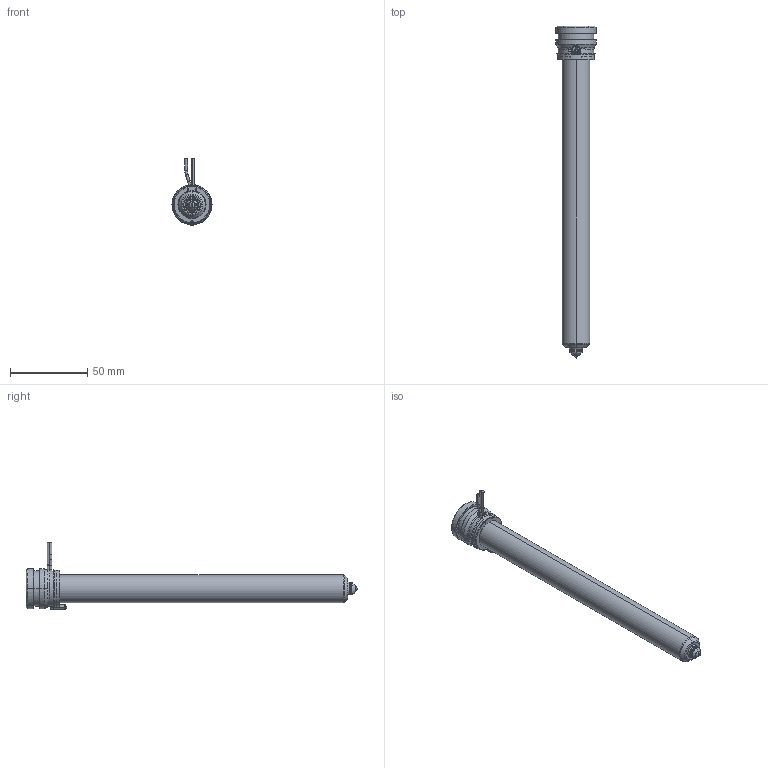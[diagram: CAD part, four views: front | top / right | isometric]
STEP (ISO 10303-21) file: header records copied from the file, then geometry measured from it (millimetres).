
FILE_DESCRIPTION((''),'2;1');
FILE_NAME('MPN-08-24-VX8-196-A','2026-02-05T12:00:53',('UPTIO'),('Thermoplay S.p.A.'),'CREO PARAMETRIC BY PTC INC, 2023494','CREO PARAMETRIC BY PTC INC, 2023494','');
FILE_SCHEMA(('CONFIG_CONTROL_DESIGN','SHAPE_APPEARANCE_LAYERS_GROUPS'));
Length unit declared in the file: millimetre
Products named in the file (1): MPN-08-24-VX8-196-A
Bounding box: 26 x 215.5 x 43.5 mm (x, y, z)
Volume: 39668.3 mm3; surface area: 52401.1 mm2
Topology: 2 solids, 3 shells, 545 faces, 1438 edges, 891 vertices
Faces by surface type: cylinder 180, plane 143, bspline 82, cone 62, torus 62, sphere 10, extrusion 6
Entity records: 29287 total; most frequent: CARTESIAN_POINT 13048, ORIENTED_EDGE 2860, DIRECTION 2578, EDGE_CURVE 1430, AXIS2_PLACEMENT_3D 1007, VERTEX_POINT 891, EDGE_LOOP 573, VECTOR 564
